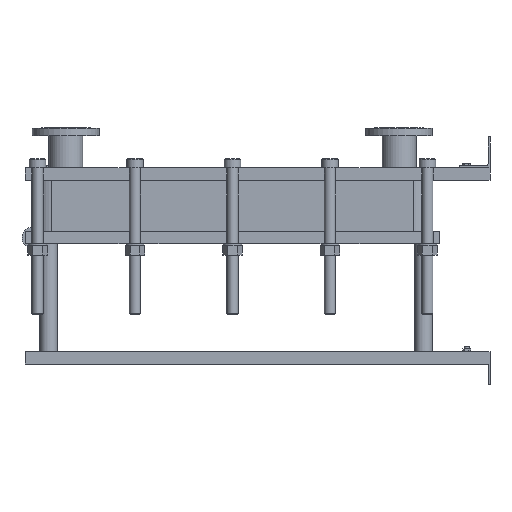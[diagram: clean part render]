
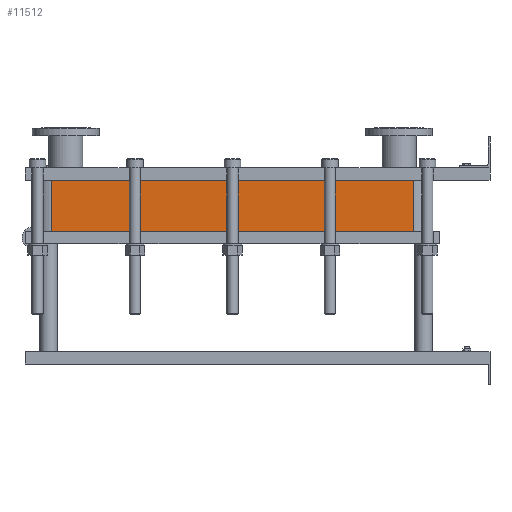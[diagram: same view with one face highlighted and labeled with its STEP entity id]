
A CAD part, left-side view. The second image highlights one B-rep face of the part: STEP entity #11512.
In plain terms, the highlighted planar face has unit normal (-1, 0, 0).
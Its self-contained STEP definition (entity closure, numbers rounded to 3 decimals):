
#1129=LINE('',#23232,#2102);
#1130=LINE('',#23236,#2103);
#1131=LINE('',#23238,#2104);
#1132=LINE('',#23239,#2105);
#2102=VECTOR('',#15887,10.);
#2103=VECTOR('',#15892,10.);
#2104=VECTOR('',#15893,10.);
#2105=VECTOR('',#15894,10.);
#3267=FACE_OUTER_BOUND('',#4093,.T.);
#4093=EDGE_LOOP('',(#10103,#10104,#10105,#10106));
#5642=VERTEX_POINT('',#23229);
#5643=VERTEX_POINT('',#23231);
#5644=VERTEX_POINT('',#23235);
#5645=VERTEX_POINT('',#23237);
#7159=EDGE_CURVE('',#5643,#5642,#1129,.T.);
#7161=EDGE_CURVE('',#5642,#5644,#1130,.T.);
#7162=EDGE_CURVE('',#5645,#5644,#1131,.T.);
#7163=EDGE_CURVE('',#5645,#5643,#1132,.T.);
#10103=ORIENTED_EDGE('',*,*,#7161,.T.);
#10104=ORIENTED_EDGE('',*,*,#7162,.F.);
#10105=ORIENTED_EDGE('',*,*,#7163,.T.);
#10106=ORIENTED_EDGE('',*,*,#7159,.T.);
#10857=PLANE('',#12751);
#11512=ADVANCED_FACE('',(#3267),#10857,.T.);
#12751=AXIS2_PLACEMENT_3D('',#23234,#15890,#15891);
#15887=DIRECTION('',(0.,0.,-1.));
#15890=DIRECTION('center_axis',(-1.,0.,0.));
#15891=DIRECTION('ref_axis',(0.,1.,0.));
#15892=DIRECTION('',(0.,-1.,0.));
#15893=DIRECTION('',(0.,0.,-1.));
#15894=DIRECTION('',(0.,1.,0.));
#23229=CARTESIAN_POINT('',(-200.,1414.,-165.6));
#23231=CARTESIAN_POINT('',(-200.,1414.,0.));
#23232=CARTESIAN_POINT('',(-200.,1414.,0.));
#23234=CARTESIAN_POINT('Origin',(-200.,248.,0.));
#23235=CARTESIAN_POINT('',(-200.,248.,-165.6));
#23236=CARTESIAN_POINT('',(-200.,539.5,-165.6));
#23237=CARTESIAN_POINT('',(-200.,248.,0.));
#23238=CARTESIAN_POINT('',(-200.,248.,0.));
#23239=CARTESIAN_POINT('',(-200.,248.,0.));
